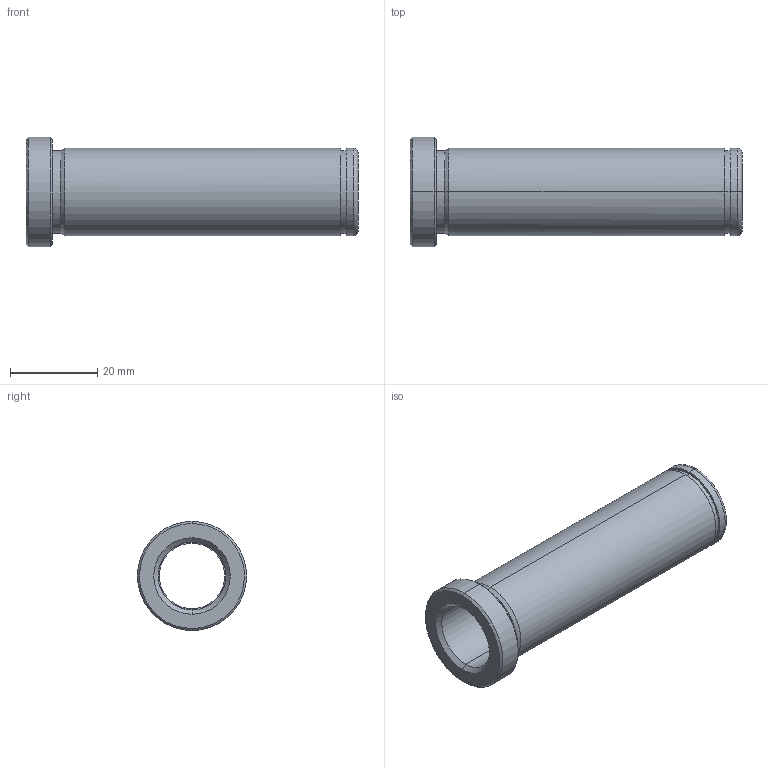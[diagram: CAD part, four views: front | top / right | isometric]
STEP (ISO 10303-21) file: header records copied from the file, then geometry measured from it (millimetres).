
FILE_DESCRIPTION(('CATIA V5 STEP Exchange'),'2;1');
FILE_NAME('C:\Users\Utente\Desktop\IO LAVORO\3D X SITO CF\X SITO\PLASTICA\553\553-15X76.stp','2021-05-21T18:34:43+00:00',('none'),('none'),'CATIA Version 5 Release 20 GA (IN-10)','CATIA V5 STEP AP203','none');
FILE_SCHEMA(('CONFIG_CONTROL_DESIGN'));
Length unit declared in the file: millimetre
Products named in the file (1): 553-15X76
Bounding box: 76 x 25 x 25 mm (x, y, z)
Volume: 10950.6 mm3; surface area: 9084.1 mm2
Topology: 1 solids, 1 shells, 31 faces, 98 edges, 72 vertices
Faces by surface type: cylinder 14, cone 8, plane 5, torus 4
Entity records: 1288 total; most frequent: CARTESIAN_POINT 384, ORIENTED_EDGE 196, DIRECTION 144, EDGE_CURVE 98, AXIS2_PLACEMENT_3D 92, VERTEX_POINT 72, CIRCLE 60, EDGE_LOOP 36
